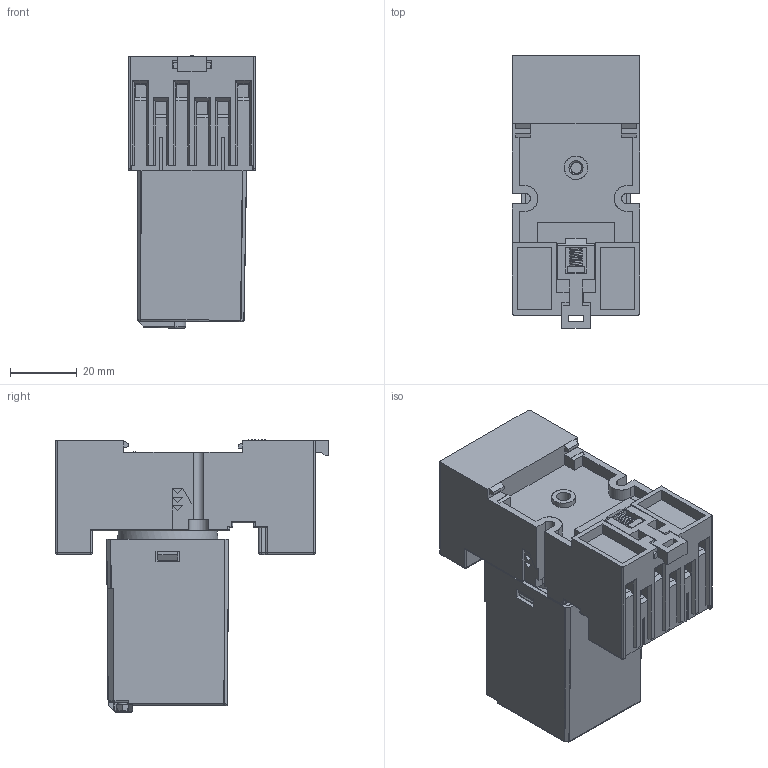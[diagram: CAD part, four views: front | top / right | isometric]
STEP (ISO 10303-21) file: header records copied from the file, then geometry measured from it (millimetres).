
FILE_DESCRIPTION(('STEP AP214'),'2;1');
FILE_NAME('9003_with_6013.stp','2015-06-19T09:17:35',(''),(''),'2007.1.106','THINKDESIGN','');
FILE_SCHEMA(('AUTOMOTIVE_DESIGN'));
Length unit declared in the file: millimetre
Products named in the file (1): top
Bounding box: 38 x 81.5 x 81.33 mm (x, y, z)
Surface area: 38857.6 mm2 (no closed solid volume)
Topology: 0 solids, 0 shells, 1191 faces, 6465 edges, 6318 vertices
Faces by surface type: plane 813, cylinder 222, bspline 156
Full cylindrical faces by diameter (mm): 1.65 x11, 2 x1, 2.35 x11, 2.8 x1, 3.1 x11, 3.9 x11, 4.2 x1, 4.7 x12, 5 x12, 7 x1, 7.4 x1
Entity records: 59904 total; most frequent: CARTESIAN_POINT 23597, DIRECTION 7856, COMPOSITE_CURVE_SEGMENT 6435, TRIMMED_CURVE 5210, VECTOR 4724, LINE 4724, AXIS2_PLACEMENT_3D 1566, OUTER_BOUNDARY_CURVE 1191
